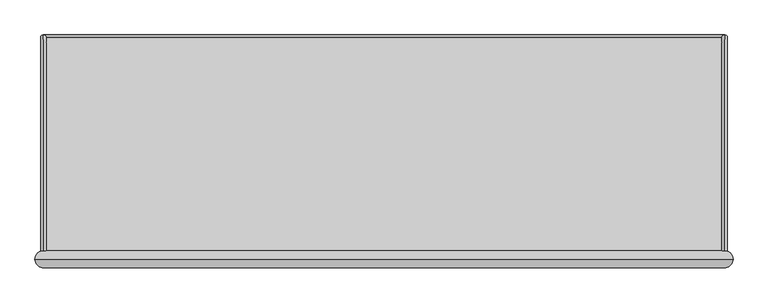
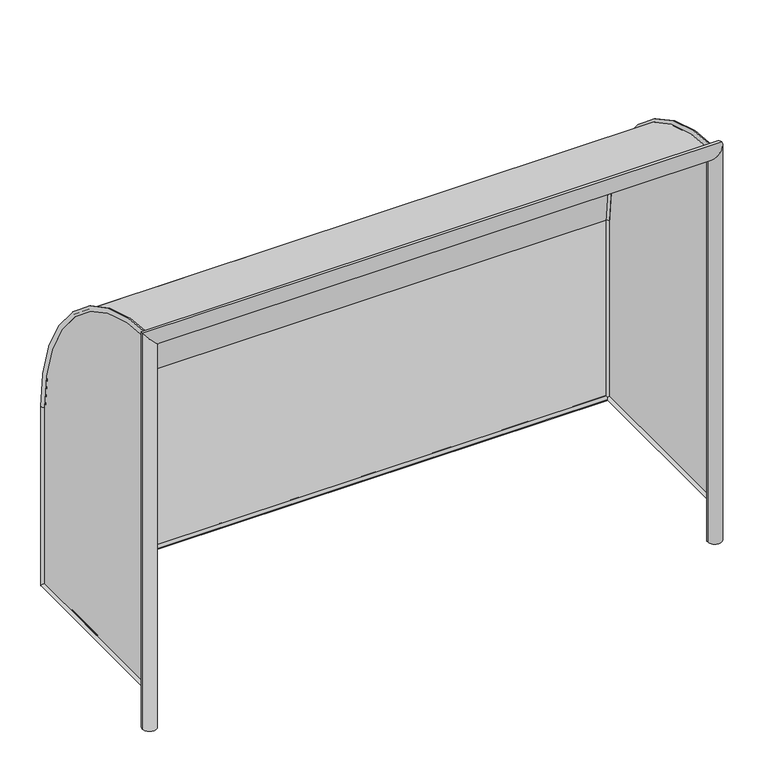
"""IFC4 building model written with IfcOpenShell, lengths in millimetres: proxy geometry, FDE_QE03_QE45_QE46_QE47_TraveFutebolSalão : QE46_LajeAlveolar."""

from ifc_helpers import new_model, si_unit, point, frame, frame_2d, origin, place, context, project, spatial, polyline, circle_curve, ellipse_curve, trimmed, segment, composite_curve, outline, extrude, source, transform, mapped, element, save
from ifc_brep_helpers import plane_surface, cylinder_surface, revolved_surface, advanced_brep


def specialty_equipment_3fbfa655(model_context):
    return source(origin(), model_context, "Body", "SolidModel", [
        advanced_brep(
        [(1538.1, 0.0, 25.4), (1538.1, 0.0, 0.0), (1538.1, 1012.7, 0.0), (1538.1, 987.3, 25.4), (1538.1, 1012.7, 1038.1), (1538.1, 987.3, 1038.1), (1538.1, 0.0, 2025.4), (1538.1, 0.0, 2050.8)],
        [
            (0, 1, circle_curve(frame((1538.1, 0.0, 12.7), z_axis=(0.0, -1.0, 0.0), x_axis=(0.0, 0.0, -1.0)), 12.7)),
            (1, 0, circle_curve(frame((1538.1, 0.0, 12.7), z_axis=(0.0, -1.0, 0.0), x_axis=(0.0, 0.0, -1.0)), 12.7)),
            (1, 2),
            (2, 3, ellipse_curve(frame((1538.1, 1000.0, 12.7), z_axis=(0.0, -0.7071067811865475, -0.7071067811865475), x_axis=(0.0, -0.7071067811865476, 0.7071067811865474)), 17.9605122, 12.7)),
            (3, 0),
            (3, 2, ellipse_curve(frame((1538.1, 1000.0, 12.7), z_axis=(0.0, -0.7071067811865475, -0.7071067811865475), x_axis=(0.0, -0.7071067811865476, 0.7071067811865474)), 17.9605122, 12.7)),
            (2, 4),
            (4, 5, circle_curve(frame((1538.1, 1000.0, 1038.1), z_axis=(0.0, 0.0, -1.0), x_axis=(0.0, 1.0, 0.0)), 12.7)),
            (5, 3),
            (5, 4, circle_curve(frame((1538.1, 1000.0, 1038.1), z_axis=(0.0, 0.0, -1.0), x_axis=(0.0, 1.0, 0.0)), 12.7)),
            (6, 7, circle_curve(frame((1538.1, 0.0, 2038.1), z_axis=(0.0, -1.0, 0.0), x_axis=(0.0, 0.0, 1.0)), 12.7)),
            (7, 6, circle_curve(frame((1538.1, 0.0, 2038.1), z_axis=(0.0, -1.0, 0.0), x_axis=(0.0, 0.0, 1.0)), 12.7)),
            (6, 5, circle_curve(frame((1538.1, 0.0, 1038.1), z_axis=(-1.0, 0.0, 0.0), x_axis=(0.0, 1.0, 0.0)), 987.3)),
            (4, 7, circle_curve(frame((1538.1, 0.0, 1038.1), z_axis=(1.0, 0.0, 0.0), x_axis=(0.0, 1.0, 0.0)), 1012.7)),
        ],
        [
            plane_surface(frame((1538.1, 0.0, 12.7), z_axis=(0.0, -1.0, 0.0), x_axis=(1.0, 0.0, 0.0))),
            cylinder_surface(frame((1538.1, 0.0, 12.7), z_axis=(0.0, -1.0, 0.0), x_axis=(0.0, 0.0, -1.0)), 12.7),
            cylinder_surface(frame((1538.1, 1000.0, 12.7), z_axis=(0.0, 0.0, -1.0), x_axis=(0.0, 1.0, 0.0)), 12.7),
            plane_surface(frame((1538.1, 0.0, 2038.1), z_axis=(0.0, -1.0, 0.0), x_axis=(1.0, 0.0, 0.0))),
            revolved_surface(trimmed(ellipse_curve(frame((1538.1, 1000.0, 1038.1), z_axis=(0.0, 0.0, -1.0), x_axis=(0.0, 1.0, 0.0)), 12.7, 12.7), [point((1538.1, 1012.7, 1038.1))], [point((1538.1, 987.3, 1038.1))], True, "CARTESIAN"), (1538.1, 0.0, 1038.1), (1.0, 0.0, 0.0)),
            revolved_surface(trimmed(ellipse_curve(frame((1538.1, 1000.0, 1038.1), z_axis=(0.0, 0.0, -1.0), x_axis=(0.0, 1.0, 0.0)), 12.7, 12.7), [point((1538.1, 987.3, 1038.1))], [point((1538.1, 1012.7, 1038.1))], True, "CARTESIAN"), (1538.1, 0.0, 1038.1), (1.0, 0.0, 0.0)),
        ],
        [
            (0, [[1, 2]]),
            (1, [[-2, 3, 4, 5]]),
            (1, [[-1, -5, 6, -3]]),
            (2, [[-4, 7, 8, 9]]),
            (2, [[-6, -9, 10, -7]]),
            (3, [[11, 12]]),
            (4, [[13, -8, 14, -11]]),
            (5, [[-14, -10, -13, -12]]),
        ],
    ),
        extrude(outline(composite_curve([segment(trimmed(circle_curve(frame_2d((1000.0, 12.7)), 12.7), [point((987.3, 12.7))], [point((1012.7, 12.7))], False, "CARTESIAN"), True, "CONTINUOUS"), segment(trimmed(circle_curve(frame_2d((1000.0, 12.7)), 12.7), [point((1012.7, 12.7))], [point((987.3, 12.7))], False, "CARTESIAN"), True, "CONTINUOUS")], self_intersect=False)), frame((-1538.1, 0.0, 0.0), z_axis=(1.0, 0.0, 0.0), x_axis=(0.0, 1.0, 0.0)), (0.0, 0.0, 1.0), 3076.2),
        advanced_brep(
        [(-1538.1, 0.0, 25.4), (-1538.1, 0.0, 0.0), (-1538.1, 987.3, 25.4), (-1538.1, 1012.7, 0.0), (-1538.1, 987.3, 1038.1), (-1538.1, 1012.7, 1038.1), (-1538.1, 0.0, 2025.4), (-1538.1, 0.0, 2050.8)],
        [
            (0, 1, circle_curve(frame((-1538.1, 0.0, 12.7), z_axis=(0.0, -1.0, 0.0), x_axis=(0.0, 0.0, -1.0)), 12.7)),
            (1, 0, circle_curve(frame((-1538.1, 0.0, 12.7), z_axis=(0.0, -1.0, 0.0), x_axis=(0.0, 0.0, -1.0)), 12.7)),
            (0, 2),
            (2, 3, ellipse_curve(frame((-1538.1, 1000.0, 12.7), z_axis=(0.0, -0.7071067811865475, -0.7071067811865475), x_axis=(0.0, -0.7071067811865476, 0.7071067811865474)), 17.9605122, 12.7)),
            (3, 1),
            (3, 2, ellipse_curve(frame((-1538.1, 1000.0, 12.7), z_axis=(0.0, -0.7071067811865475, -0.7071067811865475), x_axis=(0.0, -0.7071067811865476, 0.7071067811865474)), 17.9605122, 12.7)),
            (2, 4),
            (4, 5, circle_curve(frame((-1538.1, 1000.0, 1038.1), z_axis=(0.0, 0.0, -1.0), x_axis=(0.0, 1.0, 0.0)), 12.7)),
            (5, 3),
            (5, 4, circle_curve(frame((-1538.1, 1000.0, 1038.1), z_axis=(0.0, 0.0, -1.0), x_axis=(0.0, 1.0, 0.0)), 12.7)),
            (6, 7, circle_curve(frame((-1538.1, 0.0, 2038.1), z_axis=(0.0, -1.0, 0.0), x_axis=(0.0, 0.0, 1.0)), 12.7)),
            (7, 6, circle_curve(frame((-1538.1, 0.0, 2038.1), z_axis=(0.0, -1.0, 0.0), x_axis=(0.0, 0.0, 1.0)), 12.7)),
            (7, 5, circle_curve(frame((-1538.1, 0.0, 1038.1), z_axis=(-1.0, 0.0, 0.0), x_axis=(0.0, 1.0, 0.0)), 1012.7)),
            (4, 6, circle_curve(frame((-1538.1, 0.0, 1038.1), z_axis=(1.0, 0.0, 0.0), x_axis=(0.0, 1.0, 0.0)), 987.3)),
        ],
        [
            plane_surface(frame((-1538.1, 0.0, 12.7), z_axis=(0.0, -1.0, 0.0), x_axis=(-1.0, 0.0, 0.0))),
            cylinder_surface(frame((-1538.1, 0.0, 12.7), z_axis=(0.0, -1.0, 0.0), x_axis=(0.0, 0.0, -1.0)), 12.7),
            cylinder_surface(frame((-1538.1, 1000.0, 12.7), z_axis=(0.0, 0.0, -1.0), x_axis=(0.0, 1.0, 0.0)), 12.7),
            plane_surface(frame((-1538.1, 0.0, 2038.1), z_axis=(0.0, -1.0, 0.0), x_axis=(-1.0, 0.0, 0.0))),
            revolved_surface(trimmed(ellipse_curve(frame((-1538.1, 1000.0, 1038.1), z_axis=(0.0, 0.0, -1.0), x_axis=(0.0, 1.0, 0.0)), 12.7, 12.7), [point((-1538.1, 987.3, 1038.1))], [point((-1538.1, 1012.7, 1038.1))], True, "CARTESIAN"), (-1538.1, 0.0, 1038.1), (1.0, 0.0, 0.0)),
            revolved_surface(trimmed(ellipse_curve(frame((-1538.1, 1000.0, 1038.1), z_axis=(0.0, 0.0, -1.0), x_axis=(0.0, 1.0, 0.0)), 12.7, 12.7), [point((-1538.1, 1012.7, 1038.1))], [point((-1538.1, 987.3, 1038.1))], True, "CARTESIAN"), (-1538.1, 0.0, 1038.1), (1.0, 0.0, 0.0)),
        ],
        [
            (0, [[1, 2]]),
            (1, [[-1, 3, 4, 5]]),
            (1, [[-2, -5, 6, -3]]),
            (2, [[-4, 7, 8, 9]]),
            (2, [[-6, -9, 10, -7]]),
            (3, [[11, 12]]),
            (4, [[13, -8, 14, -12]]),
            (5, [[-14, -10, -13, -11]]),
        ],
    ),
        advanced_brep(
        [(-1576.2, 0.0, -200.0), (-1500.0, 0.0, -200.0), (1576.2, 0.0, -200.0), (1500.0, 0.0, -200.0), (-1576.2, 0.0, 2076.2), (-1500.0, 0.0, 2000.0), (1576.2, 0.0, 2076.2), (1500.0, 0.0, 2000.0)],
        [
            (0, 1, circle_curve(frame((-1538.1, 0.0, -200.0), z_axis=(0.0, 0.0, -1.0), x_axis=(1.0, 0.0, 0.0)), 38.1)),
            (1, 0, circle_curve(frame((-1538.1, 0.0, -200.0), z_axis=(0.0, 0.0, -1.0), x_axis=(1.0, 0.0, 0.0)), 38.1)),
            (2, 3, circle_curve(frame((1538.1, 0.0, -200.0), z_axis=(0.0, 0.0, -1.0), x_axis=(-1.0, 0.0, 0.0)), 38.1)),
            (3, 2, circle_curve(frame((1538.1, 0.0, -200.0), z_axis=(0.0, 0.0, -1.0), x_axis=(-1.0, 0.0, 0.0)), 38.1)),
            (0, 4),
            (4, 5, ellipse_curve(frame((-1538.1, 0.0, 2038.1), z_axis=(-0.7071067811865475, 0.0, -0.7071067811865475), x_axis=(0.7071067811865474, 0.0, -0.7071067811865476)), 53.8815367, 38.1)),
            (5, 1),
            (5, 4, ellipse_curve(frame((-1538.1, 0.0, 2038.1), z_axis=(-0.7071067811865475, 0.0, -0.7071067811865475), x_axis=(0.7071067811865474, 0.0, -0.7071067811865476)), 53.8815367, 38.1)),
            (4, 6),
            (6, 7, ellipse_curve(frame((1538.1, 0.0, 2038.1), z_axis=(-0.7071067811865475, 0.0, 0.7071067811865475), x_axis=(-0.7071067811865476, 0.0, -0.7071067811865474)), 53.8815367, 38.1)),
            (7, 5),
            (7, 6, ellipse_curve(frame((1538.1, 0.0, 2038.1), z_axis=(-0.7071067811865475, 0.0, 0.7071067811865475), x_axis=(-0.7071067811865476, 0.0, -0.7071067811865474)), 53.8815367, 38.1)),
            (6, 2),
            (3, 7),
        ],
        [
            plane_surface(frame((-1500.0, 0.0, -200.0), z_axis=(0.0, 0.0, -1.0), x_axis=(0.0, 1.0, 0.0))),
            plane_surface(frame((1500.0, 0.0, -200.0), z_axis=(0.0, 0.0, -1.0), x_axis=(0.0, 1.0, 0.0))),
            cylinder_surface(frame((-1538.1, 0.0, -200.0), z_axis=(0.0, 0.0, -1.0), x_axis=(1.0, 0.0, 0.0)), 38.1),
            cylinder_surface(frame((-1500.0, 0.0, 2038.1), z_axis=(-1.0, 0.0, 0.0), x_axis=(0.0, 0.0, -1.0)), 38.1),
            cylinder_surface(frame((1538.1, 0.0, 2000.0), z_axis=(0.0, 0.0, 1.0), x_axis=(-1.0, 0.0, 0.0)), 38.1),
        ],
        [
            (0, [[1, 2]]),
            (1, [[3, 4]]),
            (2, [[-1, 5, 6, 7]]),
            (2, [[-2, -7, 8, -5]]),
            (3, [[-6, 9, 10, 11]]),
            (3, [[-8, -11, 12, -9]]),
            (4, [[-10, 13, -4, 14]]),
            (4, [[-12, -14, -3, -13]]),
        ],
    ),
        extrude(outline(composite_curve([segment(polyline([(1000.0, 12.7), (0.0, 12.7), (0.0, 2038.1)]), True, "CONTINUOUS"), segment(trimmed(circle_curve(frame_2d((0.0, 1038.1)), 1000.0), [point((0.0, 2038.1))], [point((1000.0, 1038.1))], False, "CARTESIAN"), True, "CONTINUOUS"), segment(polyline([(1000.0, 1038.1), (1000.0, 12.7)]), True, "CONTINUOUS")], self_intersect=False)), frame((-1539.1, 0.0, 0.0), z_axis=(1.0, 0.0, 0.0), x_axis=(0.0, 1.0, 0.0)), (0.0, 0.0, 1.0), 2.0),
        extrude(outline(composite_curve([segment(polyline([(1000.0, 12.7), (0.0, 12.7), (0.0, 2038.1)]), True, "CONTINUOUS"), segment(trimmed(circle_curve(frame_2d((0.0, 1038.1)), 1000.0), [point((0.0, 2038.1))], [point((1000.0, 1038.1))], False, "CARTESIAN"), True, "CONTINUOUS"), segment(polyline([(1000.0, 1038.1), (1000.0, 12.7)]), True, "CONTINUOUS")], self_intersect=False)), frame((1537.1, 0.0, 0.0), z_axis=(1.0, 0.0, 0.0), x_axis=(0.0, 1.0, 0.0)), (0.0, 0.0, 1.0), 2.0),
        extrude(outline(composite_curve([segment(polyline([(1000.0, 12.7), (0.0, 12.7), (0.0, 2038.1)]), True, "CONTINUOUS"), segment(trimmed(circle_curve(frame_2d((0.0, 1038.1)), 1000.0), [point((0.0, 2038.1))], [point((1000.0, 1038.1))], False, "CARTESIAN"), True, "CONTINUOUS"), segment(polyline([(1000.0, 1038.1), (1000.0, 12.7)]), True, "CONTINUOUS")], self_intersect=False)), frame((1537.1, 0.0, 0.0), z_axis=(1.0, 0.0, 0.0), x_axis=(0.0, 1.0, 0.0)), (0.0, 0.0, 1.0), 2.0),
        extrude(outline(composite_curve([segment(polyline([(1000.0, 1038.1), (1000.0, 12.7), (999.0, 12.7), (999.0, 1038.1)]), True, "CONTINUOUS"), segment(trimmed(circle_curve(frame_2d((0.0, 1038.1)), 999.0), [point((999.0, 1038.1))], [point((0.0, 2037.1))], True, "CARTESIAN"), True, "CONTINUOUS"), segment(polyline([(0.0, 2037.1), (0.0, 2038.1)]), True, "CONTINUOUS"), segment(trimmed(circle_curve(frame_2d((0.0, 1038.1)), 1000.0), [point((0.0, 2038.1))], [point((1000.0, 1038.1))], False, "CARTESIAN"), True, "CONTINUOUS")], self_intersect=False)), frame((-1538.1, 0.0, 0.0), z_axis=(1.0, 0.0, 0.0), x_axis=(0.0, 1.0, 0.0)), (0.0, 0.0, 1.0), 3076.2),
    ])


if __name__ == "__main__":
    model = new_model("IFC4")
    model_context = context("Model", 3, world=origin())
    ifc_project = project(units=[si_unit("LENGTHUNIT", "METRE", prefix="MILLI")], contexts=[model_context])
    site = spatial("IfcSite", under=ifc_project)
    building = spatial("IfcBuilding", under=site)
    placement = place(None, origin())
    specialty_equipment_shape = specialty_equipment_3fbfa655(model_context)
    element("IfcBuildingElementProxy", 1, Name="FDE_QE03_QE45_QE46_QE47_TraveFutebolSalão : QE46_LajeAlveolar", ObjectType="FDE_QE03_QE45_QE46_QE47_TraveFutebolSalão : QE46_LajeAlveolar", at=placement, inside=building, context=model_context, shape_type="MappedRepresentation", body=[
        mapped(specialty_equipment_shape, transform((0.0, 0.0, 0.0), x_axis=(1.0, 0.0, 0.0), y_axis=(0.0, 1.0, 0.0), z_axis=(0.0, 0.0, 1.0))),
    ])
    save(model, "model.ifc")
